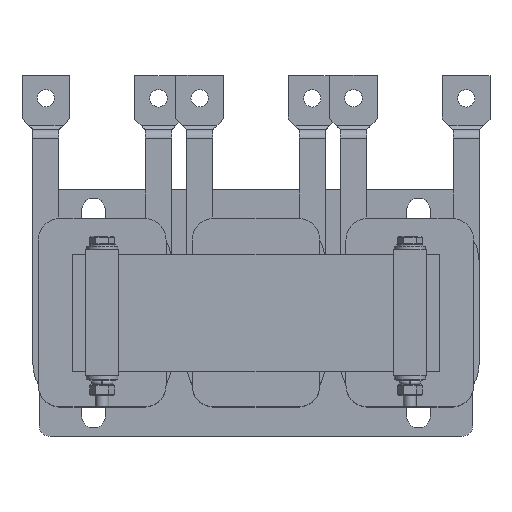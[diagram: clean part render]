
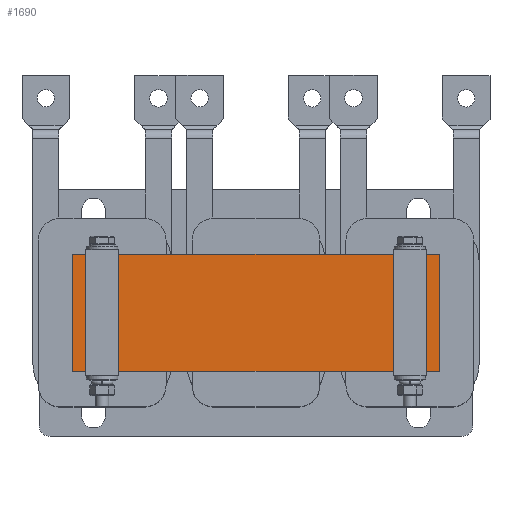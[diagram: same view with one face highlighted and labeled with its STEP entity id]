
A CAD part, top view. The second image highlights one B-rep face of the part: STEP entity #1690.
In plain terms, the highlighted planar face has unit normal (0, 0, 1).
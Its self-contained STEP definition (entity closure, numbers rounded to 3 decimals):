
#1690=ADVANCED_FACE('',(#2455),#2457,.T.);
#2455=FACE_BOUND('',#2456,.T.);
#2456=EDGE_LOOP('',(#3605,#3606,#3607,#3608));
#2457=PLANE('',#2458);
#2458=AXIS2_PLACEMENT_3D('',#2459,#2460,#2461);
#2459=CARTESIAN_POINT('',(0.,0.,33.));
#2460=DIRECTION('',(0.,0.,1.));
#2461=DIRECTION('',(-1.,0.,0.));
#3605=ORIENTED_EDGE('',*,*,#4183,.T.);
#3606=ORIENTED_EDGE('',*,*,#4177,.T.);
#3607=ORIENTED_EDGE('',*,*,#4184,.T.);
#3608=ORIENTED_EDGE('',*,*,#4171,.T.);
#4171=EDGE_CURVE('',#4714,#4712,#4715,.T.);
#4177=EDGE_CURVE('',#4726,#4724,#4727,.T.);
#4183=EDGE_CURVE('',#4712,#4726,#4735,.T.);
#4184=EDGE_CURVE('',#4724,#4714,#4736,.T.);
#4712=VERTEX_POINT('',#5862);
#4714=VERTEX_POINT('',#5866);
#4715=LINE('',#5867,#5868);
#4724=VERTEX_POINT('',#5888);
#4726=VERTEX_POINT('',#5892);
#4727=LINE('',#5893,#5894);
#4735=LINE('',#5915,#5916);
#4736=LINE('',#5918,#5919);
#5862=CARTESIAN_POINT('',(-84.5,27.,33.));
#5866=CARTESIAN_POINT('',(84.5,27.,33.));
#5867=CARTESIAN_POINT('',(84.5,27.,33.));
#5868=VECTOR('',#5869,1.);
#5869=DIRECTION('',(-1.,0.,0.));
#5888=CARTESIAN_POINT('',(84.5,-27.,33.));
#5892=CARTESIAN_POINT('',(-84.5,-27.,33.));
#5893=CARTESIAN_POINT('',(-84.5,-27.,33.));
#5894=VECTOR('',#5895,1.);
#5895=DIRECTION('',(1.,0.,0.));
#5915=CARTESIAN_POINT('',(-84.5,27.,33.));
#5916=VECTOR('',#5917,1.);
#5917=DIRECTION('',(0.,-1.,0.));
#5918=CARTESIAN_POINT('',(84.5,-27.,33.));
#5919=VECTOR('',#5920,1.);
#5920=DIRECTION('',(0.,1.,0.));
